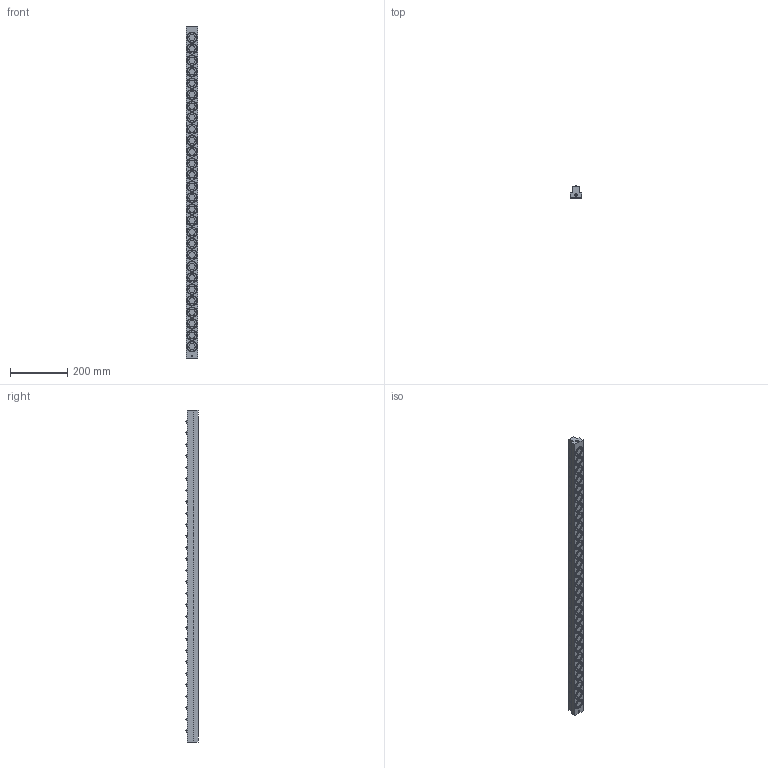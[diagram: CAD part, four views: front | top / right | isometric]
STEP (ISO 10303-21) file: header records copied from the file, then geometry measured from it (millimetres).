
FILE_DESCRIPTION (( 'STEP AP203' ), '1' );
FILE_NAME ('PVL30T-28.STEP', '2016-02-18T04:56:09', ( '' ), ( '' ), 'SwSTEP 2.0', 'SolidWorks 2013', '' );
FILE_SCHEMA (( 'CONFIG_CONTROL_DESIGN' ));
Length unit declared in the file: millimetre
Products named in the file (1): PVL30T-28
Bounding box: 40 x 42 x 1160 mm (x, y, z)
Volume: 1313436.4 mm3; surface area: 217862 mm2
Topology: 1 solids, 1 shells, 890 faces, 2264 edges, 1517 vertices
Faces by surface type: cylinder 566, plane 264, sphere 56, cone 4
Entity records: 27779 total; most frequent: DIRECTION 5460, CARTESIAN_POINT 4670, ORIENTED_EDGE 4524, AXIS2_PLACEMENT_3D 2307, EDGE_CURVE 2262, VERTEX_POINT 1517, CIRCLE 1416, EDGE_LOOP 1035
